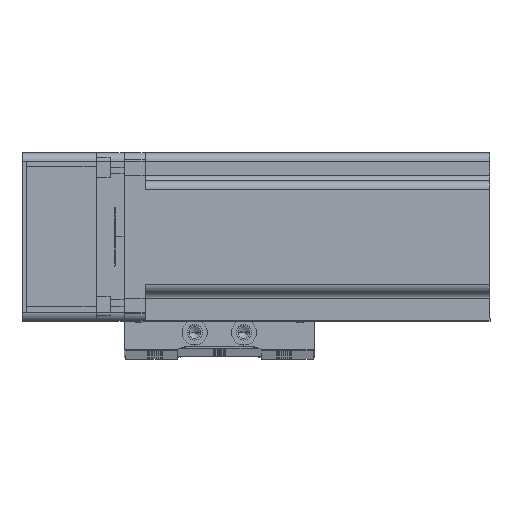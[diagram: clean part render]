
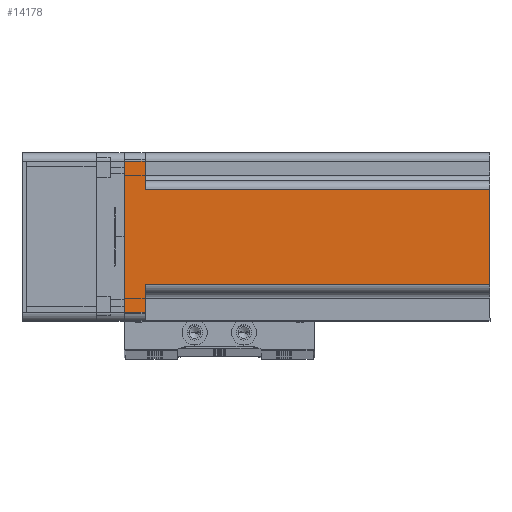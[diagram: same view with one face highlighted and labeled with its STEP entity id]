
A CAD part, top view. The second image highlights one B-rep face of the part: STEP entity #14178.
In plain terms, the highlighted planar face has unit normal (0, 0, 1) as drawn and (0, 1, 0) by its records, which use the part's own axes.
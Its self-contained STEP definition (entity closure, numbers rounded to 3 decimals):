
#485 = CARTESIAN_POINT ( 'NONE',  ( -27., 30., 130.7 ) ) ;
#4200 = DIRECTION ( 'NONE',  ( 1., 0., 0. ) ) ;
#4498 = VECTOR ( 'NONE', #4200, 1000. ) ;
#4535 = EDGE_CURVE ( 'NONE', #62939, #44901, #38088, .T. ) ;
#5465 = EDGE_CURVE ( 'NONE', #56539, #57889, #49662, .T. ) ;
#5520 = VECTOR ( 'NONE', #30017, 1000. ) ;
#5748 = EDGE_CURVE ( 'NONE', #62939, #7525, #33127, .T. ) ;
#7195 = AXIS2_PLACEMENT_3D ( 'NONE', #24500, #59641, #29577 ) ;
#7525 = VERTEX_POINT ( 'NONE', #22332 ) ;
#8406 = ORIENTED_EDGE ( 'NONE', *, *, #32802, .T. ) ;
#8538 = VERTEX_POINT ( 'NONE', #27820 ) ;
#9869 = LINE ( 'NONE', #26549, #21693 ) ;
#13493 = FACE_OUTER_BOUND ( 'NONE', #32789, .T. ) ;
#13713 = ORIENTED_EDGE ( 'NONE', *, *, #4535, .T. ) ;
#14178 = ADVANCED_FACE ( 'NONE', ( #13493 ), #64448, .F. ) ;
#15708 = CARTESIAN_POINT ( 'NONE',  ( -27., 30., 7.5 ) ) ;
#15880 = ORIENTED_EDGE ( 'NONE', *, *, #40809, .F. ) ;
#16098 = CARTESIAN_POINT ( 'NONE',  ( 20., 30., 7.5 ) ) ;
#17212 = DIRECTION ( 'NONE',  ( -1., 0., 0. ) ) ;
#18095 = VECTOR ( 'NONE', #17212, 1000. ) ;
#18463 = EDGE_CURVE ( 'NONE', #22057, #56539, #56395, .T. ) ;
#21693 = VECTOR ( 'NONE', #31623, 1000. ) ;
#22057 = VERTEX_POINT ( 'NONE', #15708 ) ;
#22332 = CARTESIAN_POINT ( 'NONE',  ( 17., 30., 7.5 ) ) ;
#22361 = VECTOR ( 'NONE', #60498, 1000. ) ;
#24500 = CARTESIAN_POINT ( 'NONE',  ( 30., 30., 130.7 ) ) ;
#24744 = VECTOR ( 'NONE', #27843, 1000. ) ;
#26530 = CARTESIAN_POINT ( 'NONE',  ( -17., 30., 7.5 ) ) ;
#26549 = CARTESIAN_POINT ( 'NONE',  ( 17., 30., 130.7 ) ) ;
#27820 = CARTESIAN_POINT ( 'NONE',  ( -27., 30., 0. ) ) ;
#27843 = DIRECTION ( 'NONE',  ( 0., 0., -1. ) ) ;
#28312 = CARTESIAN_POINT ( 'NONE',  ( 27., 30., 130.7 ) ) ;
#29577 = DIRECTION ( 'NONE',  ( 1., 0., 0. ) ) ;
#29730 = CARTESIAN_POINT ( 'NONE',  ( 17., 30., 130.7 ) ) ;
#30017 = DIRECTION ( 'NONE',  ( -1., 0., 0. ) ) ;
#31398 = LINE ( 'NONE', #35017, #33006 ) ;
#31497 = ORIENTED_EDGE ( 'NONE', *, *, #18463, .T. ) ;
#31623 = DIRECTION ( 'NONE',  ( 0., 0., -1. ) ) ;
#31935 = CARTESIAN_POINT ( 'NONE',  ( -17., 30., 130.7 ) ) ;
#32789 = EDGE_LOOP ( 'NONE', ( #31497, #39531, #15880, #59435, #35640, #13713, #8406, #63740 ) ) ;
#32802 = EDGE_CURVE ( 'NONE', #44901, #8538, #31398, .T. ) ;
#33006 = VECTOR ( 'NONE', #65082, 1000. ) ;
#33127 = LINE ( 'NONE', #16098, #18095 ) ;
#34509 = EDGE_CURVE ( 'NONE', #8538, #22057, #62424, .T. ) ;
#34722 = VECTOR ( 'NONE', #50458, 1000. ) ;
#35017 = CARTESIAN_POINT ( 'NONE',  ( 30., 30., 0. ) ) ;
#35640 = ORIENTED_EDGE ( 'NONE', *, *, #5748, .F. ) ;
#38088 = LINE ( 'NONE', #28312, #24744 ) ;
#39350 = CARTESIAN_POINT ( 'NONE',  ( -20., 30., 7.5 ) ) ;
#39531 = ORIENTED_EDGE ( 'NONE', *, *, #5465, .T. ) ;
#40809 = EDGE_CURVE ( 'NONE', #43720, #57889, #45686, .T. ) ;
#42860 = CARTESIAN_POINT ( 'NONE',  ( 27., 30., 7.5 ) ) ;
#43720 = VERTEX_POINT ( 'NONE', #29730 ) ;
#44901 = VERTEX_POINT ( 'NONE', #56556 ) ;
#45686 = LINE ( 'NONE', #65117, #5520 ) ;
#48401 = EDGE_CURVE ( 'NONE', #43720, #7525, #9869, .T. ) ;
#48786 = CARTESIAN_POINT ( 'NONE',  ( -17., 30., 130.7 ) ) ;
#49662 = LINE ( 'NONE', #48786, #34722 ) ;
#50458 = DIRECTION ( 'NONE',  ( 0., 0., 1. ) ) ;
#56395 = LINE ( 'NONE', #39350, #4498 ) ;
#56539 = VERTEX_POINT ( 'NONE', #26530 ) ;
#56556 = CARTESIAN_POINT ( 'NONE',  ( 27., 30., 0. ) ) ;
#57889 = VERTEX_POINT ( 'NONE', #31935 ) ;
#59435 = ORIENTED_EDGE ( 'NONE', *, *, #48401, .T. ) ;
#59641 = DIRECTION ( 'NONE',  ( 0., -1., 0. ) ) ;
#60498 = DIRECTION ( 'NONE',  ( 0., 0., 1. ) ) ;
#62424 = LINE ( 'NONE', #485, #22361 ) ;
#62939 = VERTEX_POINT ( 'NONE', #42860 ) ;
#63740 = ORIENTED_EDGE ( 'NONE', *, *, #34509, .T. ) ;
#64448 = PLANE ( 'NONE',  #7195 ) ;
#65082 = DIRECTION ( 'NONE',  ( -1., 0., 0. ) ) ;
#65117 = CARTESIAN_POINT ( 'NONE',  ( 30., 30., 130.7 ) ) ;
